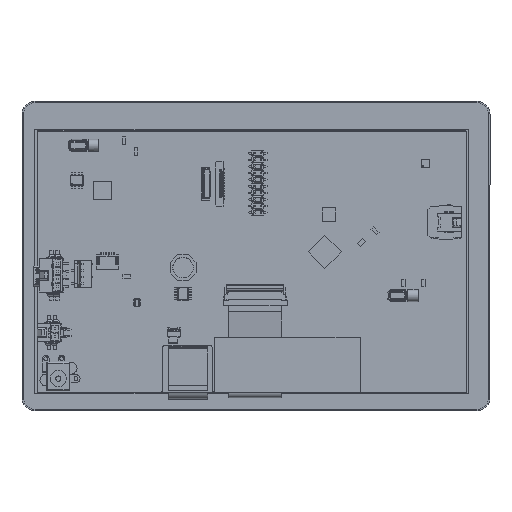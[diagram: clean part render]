
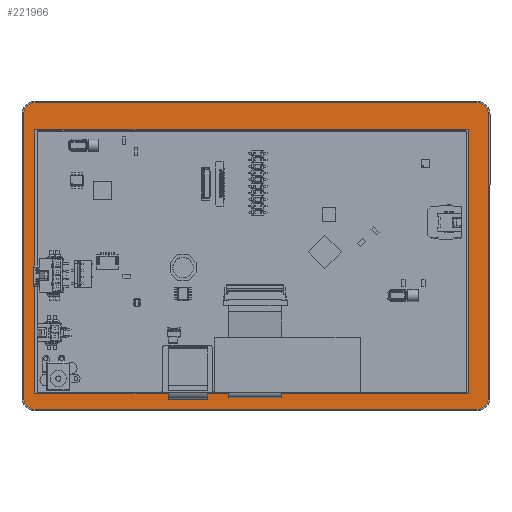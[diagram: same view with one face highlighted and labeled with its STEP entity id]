
A CAD part, top view. The second image highlights one B-rep face of the part: STEP entity #221966.
In plain terms, the highlighted planar face has unit normal (0, 0, 1) as drawn and (0, 0, -1) by its records, which use the part's own axes.
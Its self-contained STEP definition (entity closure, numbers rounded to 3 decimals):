
#8946 = DIRECTION ( 'NONE',  ( 0., 0., 1. ) ) ;
#12182 = CARTESIAN_POINT ( 'NONE',  ( -84.98, -54.5, 0. ) ) ;
#14048 = DIRECTION ( 'NONE',  ( 0., 0., 1. ) ) ;
#15696 = DIRECTION ( 'NONE',  ( 1., 0., 0. ) ) ;
#16596 = CIRCLE ( 'NONE', #361408, 4.5 ) ;
#21881 = EDGE_CURVE ( 'NONE', #431565, #384927, #112117, .T. ) ;
#24925 = CARTESIAN_POINT ( 'NONE',  ( 89.48, 54.5, 0. ) ) ;
#37080 = EDGE_CURVE ( 'NONE', #384927, #278094, #203851, .T. ) ;
#41045 = VECTOR ( 'NONE', #158457, 1000. ) ;
#41574 = CARTESIAN_POINT ( 'NONE',  ( -89.48, -54.5, 0. ) ) ;
#44370 = EDGE_CURVE ( 'NONE', #218785, #431565, #481227, .T. ) ;
#46723 = DIRECTION ( 'NONE',  ( -1., 0., 0. ) ) ;
#52935 = CARTESIAN_POINT ( 'NONE',  ( -81.75, 48.75, 0. ) ) ;
#55940 = DIRECTION ( 'NONE',  ( 0., 0., 1. ) ) ;
#64124 = LINE ( 'NONE', #84105, #300543 ) ;
#67346 = DIRECTION ( 'NONE',  ( 0., -1., 0. ) ) ;
#70581 = VECTOR ( 'NONE', #326637, 1000. ) ;
#72356 = VERTEX_POINT ( 'NONE', #326775 ) ;
#73371 = DIRECTION ( 'NONE',  ( 1., 0., 0. ) ) ;
#84105 = CARTESIAN_POINT ( 'NONE',  ( -84.98, 59., 0. ) ) ;
#87762 = AXIS2_PLACEMENT_3D ( 'NONE', #210436, #14048, #15696 ) ;
#91125 = DIRECTION ( 'NONE',  ( 1., 0., 0. ) ) ;
#109609 = CARTESIAN_POINT ( 'NONE',  ( -81.75, -53.05, 0. ) ) ;
#112117 = LINE ( 'NONE', #384843, #41045 ) ;
#112937 = DIRECTION ( 'NONE',  ( 0., 0., 1. ) ) ;
#113591 = CARTESIAN_POINT ( 'NONE',  ( -81.75, 48.75, 0. ) ) ;
#115447 = ORIENTED_EDGE ( 'NONE', *, *, #21881, .T. ) ;
#119025 = AXIS2_PLACEMENT_3D ( 'NONE', #239711, #125700, #91125 ) ;
#125204 = DIRECTION ( 'NONE',  ( -1., 0., 0. ) ) ;
#125700 = DIRECTION ( 'NONE',  ( 0., 0., 1. ) ) ;
#127505 = VERTEX_POINT ( 'NONE', #316118 ) ;
#128380 = VECTOR ( 'NONE', #341326, 1000. ) ;
#138680 = EDGE_CURVE ( 'NONE', #72356, #378644, #377689, .T. ) ;
#145178 = EDGE_CURVE ( 'NONE', #187543, #488570, #450482, .T. ) ;
#157388 = VECTOR ( 'NONE', #192273, 1000. ) ;
#158457 = DIRECTION ( 'NONE',  ( 0., 1., 0. ) ) ;
#161733 = VERTEX_POINT ( 'NONE', #24925 ) ;
#168160 = DIRECTION ( 'NONE',  ( 1., 0., 0. ) ) ;
#168673 = CARTESIAN_POINT ( 'NONE',  ( 85.05, -53.05, 0. ) ) ;
#170701 = ORIENTED_EDGE ( 'NONE', *, *, #44370, .T. ) ;
#172043 = EDGE_CURVE ( 'NONE', #211284, #187543, #16596, .T. ) ;
#178662 = CARTESIAN_POINT ( 'NONE',  ( 89.48, -54.5, 0. ) ) ;
#186301 = AXIS2_PLACEMENT_3D ( 'NONE', #465616, #55940, #168160 ) ;
#187543 = VERTEX_POINT ( 'NONE', #401642 ) ;
#188850 = ORIENTED_EDGE ( 'NONE', *, *, #145178, .F. ) ;
#192273 = DIRECTION ( 'NONE',  ( 0., 1., 0. ) ) ;
#197506 = EDGE_LOOP ( 'NONE', ( #393519, #209470, #443744, #356517, #210655, #212695, #339263, #188850 ) ) ;
#201646 = DIRECTION ( 'NONE',  ( -1., 0., 0. ) ) ;
#203459 = VECTOR ( 'NONE', #73371, 1000. ) ;
#203851 = LINE ( 'NONE', #52935, #357238 ) ;
#205798 = EDGE_LOOP ( 'NONE', ( #301422, #170701, #115447, #340935 ) ) ;
#209470 = ORIENTED_EDGE ( 'NONE', *, *, #487363, .F. ) ;
#210436 = CARTESIAN_POINT ( 'NONE',  ( 84.98, -54.5, 0. ) ) ;
#210655 = ORIENTED_EDGE ( 'NONE', *, *, #138680, .F. ) ;
#211284 = VERTEX_POINT ( 'NONE', #247751 ) ;
#212695 = ORIENTED_EDGE ( 'NONE', *, *, #484633, .F. ) ;
#218785 = VERTEX_POINT ( 'NONE', #429166 ) ;
#221966 = ADVANCED_FACE ( 'NONE', ( #405474, #340219 ), #312386, .F. ) ;
#239711 = CARTESIAN_POINT ( 'NONE',  ( -84.98, 54.5, 0. ) ) ;
#247751 = CARTESIAN_POINT ( 'NONE',  ( -84.98, 59., 0. ) ) ;
#257257 = CARTESIAN_POINT ( 'NONE',  ( -89.48, 54.5, 0. ) ) ;
#278094 = VERTEX_POINT ( 'NONE', #307992 ) ;
#284932 = EDGE_CURVE ( 'NONE', #488570, #398216, #484964, .T. ) ;
#285269 = CARTESIAN_POINT ( 'NONE',  ( 85.05, 48.75, 0. ) ) ;
#294614 = AXIS2_PLACEMENT_3D ( 'NONE', #12182, #8946, #46723 ) ;
#300543 = VECTOR ( 'NONE', #125204, 1000. ) ;
#301422 = ORIENTED_EDGE ( 'NONE', *, *, #407527, .T. ) ;
#307992 = CARTESIAN_POINT ( 'NONE',  ( -81.75, 48.75, 0. ) ) ;
#312386 = PLANE ( 'NONE',  #119025 ) ;
#315055 = EDGE_CURVE ( 'NONE', #161733, #127505, #320695, .T. ) ;
#316118 = CARTESIAN_POINT ( 'NONE',  ( 84.98, 59., 0. ) ) ;
#320695 = CIRCLE ( 'NONE', #186301, 4.5 ) ;
#326160 = VECTOR ( 'NONE', #67346, 1000. ) ;
#326637 = DIRECTION ( 'NONE',  ( 1., 0., 0. ) ) ;
#326775 = CARTESIAN_POINT ( 'NONE',  ( 84.98, -59., 0. ) ) ;
#338021 = CARTESIAN_POINT ( 'NONE',  ( -84.98, -59., 0. ) ) ;
#339263 = ORIENTED_EDGE ( 'NONE', *, *, #284932, .F. ) ;
#340219 = FACE_BOUND ( 'NONE', #205798, .T. ) ;
#340935 = ORIENTED_EDGE ( 'NONE', *, *, #37080, .T. ) ;
#341326 = DIRECTION ( 'NONE',  ( 0., -1., 0. ) ) ;
#344092 = CARTESIAN_POINT ( 'NONE',  ( 89.48, 54.5, 0. ) ) ;
#352915 = LINE ( 'NONE', #113591, #128380 ) ;
#354286 = LINE ( 'NONE', #401270, #70581 ) ;
#356517 = ORIENTED_EDGE ( 'NONE', *, *, #379935, .F. ) ;
#357238 = VECTOR ( 'NONE', #201646, 1000. ) ;
#361408 = AXIS2_PLACEMENT_3D ( 'NONE', #415288, #112937, #454842 ) ;
#370234 = LINE ( 'NONE', #344092, #157388 ) ;
#377689 = CIRCLE ( 'NONE', #87762, 4.5 ) ;
#378644 = VERTEX_POINT ( 'NONE', #178662 ) ;
#379935 = EDGE_CURVE ( 'NONE', #378644, #161733, #370234, .T. ) ;
#384843 = CARTESIAN_POINT ( 'NONE',  ( 85.05, 48.75, 0. ) ) ;
#384927 = VERTEX_POINT ( 'NONE', #285269 ) ;
#393519 = ORIENTED_EDGE ( 'NONE', *, *, #172043, .F. ) ;
#398216 = VERTEX_POINT ( 'NONE', #338021 ) ;
#401270 = CARTESIAN_POINT ( 'NONE',  ( -84.98, -59., 0. ) ) ;
#401642 = CARTESIAN_POINT ( 'NONE',  ( -89.48, 54.5, 0. ) ) ;
#405474 = FACE_OUTER_BOUND ( 'NONE', #197506, .T. ) ;
#407527 = EDGE_CURVE ( 'NONE', #278094, #218785, #352915, .T. ) ;
#415288 = CARTESIAN_POINT ( 'NONE',  ( -84.98, 54.5, 0. ) ) ;
#429166 = CARTESIAN_POINT ( 'NONE',  ( -81.75, -53.05, 0. ) ) ;
#431565 = VERTEX_POINT ( 'NONE', #168673 ) ;
#443744 = ORIENTED_EDGE ( 'NONE', *, *, #315055, .F. ) ;
#450482 = LINE ( 'NONE', #257257, #326160 ) ;
#454842 = DIRECTION ( 'NONE',  ( 1., 0., 0. ) ) ;
#465616 = CARTESIAN_POINT ( 'NONE',  ( 84.98, 54.5, 0. ) ) ;
#481227 = LINE ( 'NONE', #109609, #203459 ) ;
#484633 = EDGE_CURVE ( 'NONE', #398216, #72356, #354286, .T. ) ;
#484964 = CIRCLE ( 'NONE', #294614, 4.5 ) ;
#487363 = EDGE_CURVE ( 'NONE', #127505, #211284, #64124, .T. ) ;
#488570 = VERTEX_POINT ( 'NONE', #41574 ) ;
